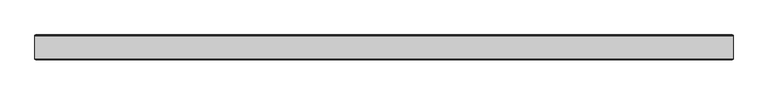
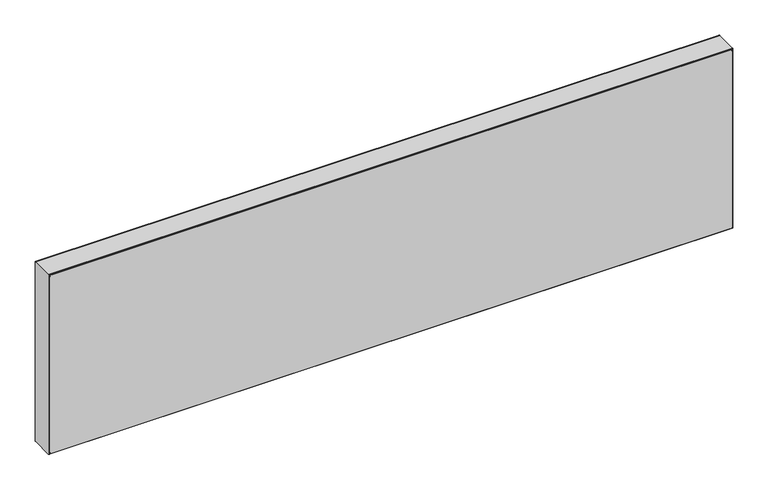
"""IFC4 building model written with IfcOpenShell, lengths in millimetres: proxy geometry, EVRA CV Д : 11-500-1800."""

from ifc_helpers import new_model, si_unit, point, frame, frame_2d, origin, place, context, project, spatial, polyline, circle_curve, trimmed, segment, composite_curve, outline, extrude, source, transform, mapped, element, save


def mechanical_equipment_2e3e853b(model_context):
    return source(origin(), model_context, "Body", "SweptSolid", [
        extrude(outline(composite_curve([segment(polyline([(598.0, 1093.0), (598.0, -693.0)]), True, "CONTINUOUS"), segment(trimmed(circle_curve(frame_2d((593.0, -693.0)), 5.0), [point((598.0, -693.0))], [point((593.0, -698.0))], False, "CARTESIAN"), True, "CONTINUOUS"), segment(polyline([(593.0, -698.0), (107.0, -698.0)]), True, "CONTINUOUS"), segment(trimmed(circle_curve(frame_2d((107.0, -693.0)), 5.0), [point((107.0, -698.0))], [point((102.0, -693.0))], False, "CARTESIAN"), True, "CONTINUOUS"), segment(polyline([(102.0, -693.0), (102.0, 1093.0)]), True, "CONTINUOUS"), segment(trimmed(circle_curve(frame_2d((107.0, 1093.0)), 5.0), [point((102.0, 1093.0))], [point((107.0, 1098.0))], False, "CARTESIAN"), True, "CONTINUOUS"), segment(polyline([(107.0, 1098.0), (593.0, 1098.0)]), True, "CONTINUOUS"), segment(trimmed(circle_curve(frame_2d((593.0, 1093.0)), 5.0), [point((593.0, 1098.0))], [point((598.0, 1093.0))], False, "CARTESIAN"), True, "CONTINUOUS")], self_intersect=False)), frame((0.0, 11.4631102, 0.0), z_axis=(0.0, 1.0, 0.0), x_axis=(0.0, 0.0, 1.0)), (0.0, 0.0, 1.0), 1.0),
        extrude(outline(composite_curve([segment(polyline([(598.0, 1093.0), (598.0, -693.0)]), True, "CONTINUOUS"), segment(trimmed(circle_curve(frame_2d((593.0, -693.0)), 5.0), [point((598.0, -693.0))], [point((593.0, -698.0))], False, "CARTESIAN"), True, "CONTINUOUS"), segment(polyline([(593.0, -698.0), (107.0, -698.0)]), True, "CONTINUOUS"), segment(trimmed(circle_curve(frame_2d((107.0, -693.0)), 5.0), [point((107.0, -698.0))], [point((102.0, -693.0))], False, "CARTESIAN"), True, "CONTINUOUS"), segment(polyline([(102.0, -693.0), (102.0, 1093.0)]), True, "CONTINUOUS"), segment(trimmed(circle_curve(frame_2d((107.0, 1093.0)), 5.0), [point((102.0, 1093.0))], [point((107.0, 1098.0))], False, "CARTESIAN"), True, "CONTINUOUS"), segment(polyline([(107.0, 1098.0), (593.0, 1098.0)]), True, "CONTINUOUS"), segment(trimmed(circle_curve(frame_2d((593.0, 1093.0)), 5.0), [point((593.0, 1098.0))], [point((598.0, 1093.0))], False, "CARTESIAN"), True, "CONTINUOUS")], self_intersect=False)), frame((0.0, -51.5368898, 0.0), z_axis=(0.0, 1.0, 0.0), x_axis=(0.0, 0.0, 1.0)), (0.0, 0.0, 1.0), 1.0),
        extrude(outline(composite_curve([segment(trimmed(circle_curve(frame_2d((9.4631102, 598.0)), 2.0), [point((9.4631102, 600.0))], [point((11.4631102, 598.0))], False, "CARTESIAN"), True, "CONTINUOUS"), segment(polyline([(11.4631102, 598.0), (11.4631102, 102.0)]), True, "CONTINUOUS"), segment(trimmed(circle_curve(frame_2d((9.4631102, 102.0)), 2.0), [point((11.4631102, 102.0))], [point((9.4631102, 100.0))], False, "CARTESIAN"), True, "CONTINUOUS"), segment(polyline([(9.4631102, 100.0), (-48.5368898, 100.0)]), True, "CONTINUOUS"), segment(trimmed(circle_curve(frame_2d((-48.5368898, 102.0)), 2.0), [point((-48.5368898, 100.0))], [point((-50.5368898, 102.0))], False, "CARTESIAN"), True, "CONTINUOUS"), segment(polyline([(-50.5368898, 102.0), (-50.5368898, 598.0)]), True, "CONTINUOUS"), segment(trimmed(circle_curve(frame_2d((-48.5368898, 598.0)), 2.0), [point((-50.5368898, 598.0))], [point((-48.5368898, 600.0))], False, "CARTESIAN"), True, "CONTINUOUS"), segment(polyline([(-48.5368898, 600.0), (9.4631102, 600.0)]), True, "CONTINUOUS")], self_intersect=False)), frame((-700.0, 0.0, 0.0), z_axis=(1.0, 0.0, 0.0), x_axis=(0.0, 1.0, 0.0)), (0.0, 0.0, 1.0), 1800.0),
    ])


if __name__ == "__main__":
    model = new_model("IFC4")
    model_context = context("Model", 3, world=origin())
    ifc_project = project(units=[si_unit("LENGTHUNIT", "METRE", prefix="MILLI")], contexts=[model_context])
    site = spatial("IfcSite", under=ifc_project)
    building = spatial("IfcBuilding", under=site)
    placement = place(None, origin())
    mechanical_equipment_shape = mechanical_equipment_2e3e853b(model_context)
    element("IfcBuildingElementProxy", 1, Name="EVRA CV Д : 11-500-1800", ObjectType="EVRA CV Д : 11-500-1800", at=placement, inside=building, context=model_context, shape_type="MappedRepresentation", body=[
        mapped(mechanical_equipment_shape, transform((0.0, 0.0, 0.0), x_axis=(1.0, 0.0, 0.0), y_axis=(0.0, 1.0, 0.0), z_axis=(0.0, 0.0, 1.0))),
    ])
    save(model, "model.ifc")
